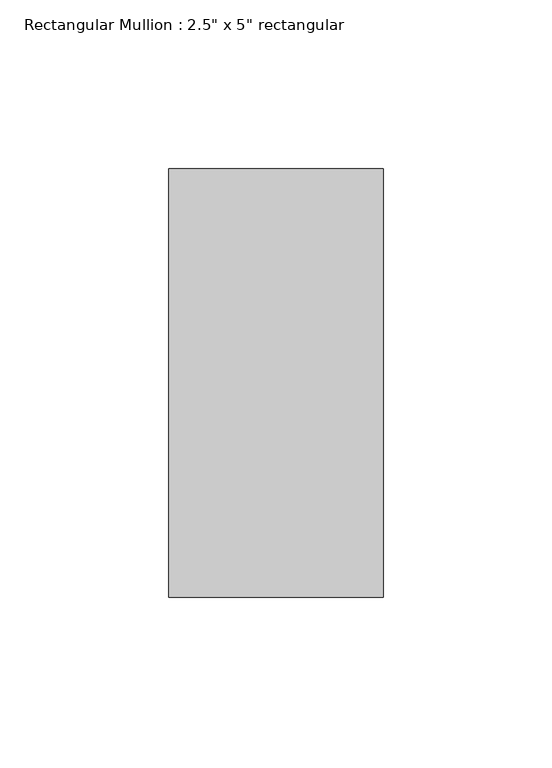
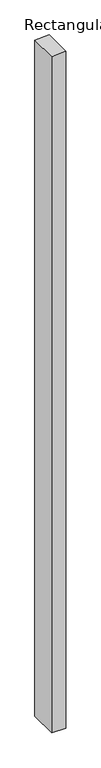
"""IFC4 building model written with IfcOpenShell, lengths in millimetres: member geometry."""

from ifc_helpers import new_model, si_unit, frame, origin, place, context, project, spatial, polyline, outline, extrude, source, transform, mapped, element, save


def member_09c59d25(model_context):
    return source(origin(), model_context, "Body", "SweptSolid", [
        extrude(outline(polyline([(0.0, 0.0), (-2.9092287, -63.5), (-3154.3443984, -63.5), (-3156.6182055, 0.0), (0.0, 0.0)])), frame((0.0, -63.5, 0.0), z_axis=(0.0, 1.0, 0.0), x_axis=(0.0, 0.0, 1.0)), (0.0, 0.0, 1.0), 127.0),
    ])


if __name__ == "__main__":
    model = new_model("IFC4")
    model_context = context("Model", 3, world=origin())
    ifc_project = project(units=[si_unit("LENGTHUNIT", "METRE", prefix="MILLI")], contexts=[model_context])
    site = spatial("IfcSite", under=ifc_project)
    building = spatial("IfcBuilding", under=site)
    placement = place(None, origin())
    member_shape = member_09c59d25(model_context)
    element("IfcMember", 1, ObjectType="Rectangular Mullion : 2.5\" x 5\" rectangular", at=placement, inside=building, context=model_context, shape_type="MappedRepresentation", body=[
        mapped(member_shape, transform((0.0, 0.0, 0.0), x_axis=(1.0, 0.0, 0.0), y_axis=(0.0, 1.0, 0.0), z_axis=(0.0, 0.0, 1.0))),
    ])
    save(model, "model.ifc")
